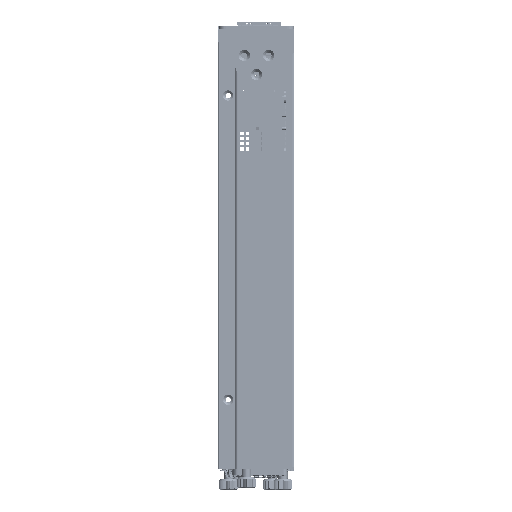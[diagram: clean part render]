
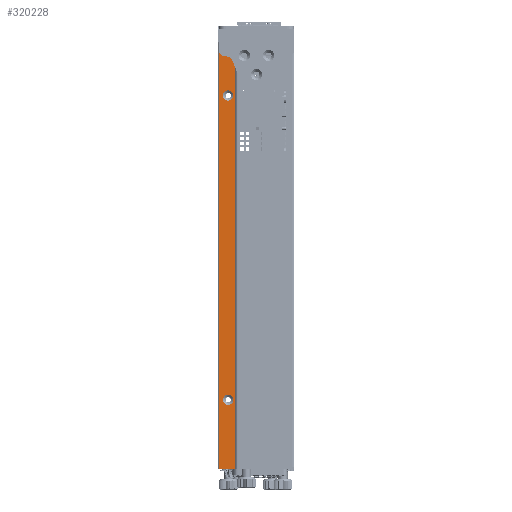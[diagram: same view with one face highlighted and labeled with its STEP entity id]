
A CAD part, left-side view. The second image highlights one B-rep face of the part: STEP entity #320228.
In plain terms, the highlighted planar face has unit normal (-1, 0, 0).
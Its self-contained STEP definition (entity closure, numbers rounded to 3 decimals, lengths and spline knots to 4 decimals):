
#3081 = VECTOR ( 'NONE', #1030586, 39.3701 ) ;
#17103 = DIRECTION ( 'NONE',  ( 0., -1., 0. ) ) ;
#52073 = VERTEX_POINT ( 'NONE', #377244 ) ;
#52497 = VERTEX_POINT ( 'NONE', #690537 ) ;
#60154 = CARTESIAN_POINT ( 'NONE',  ( -8.7402, 1.3386, -10. ) ) ;
#79316 = CARTESIAN_POINT ( 'NONE',  ( -8.7402, 1.7323, -10.0394 ) ) ;
#98225 = EDGE_CURVE ( 'NONE', #340029, #52497, #160130, .T. ) ;
#112566 = VERTEX_POINT ( 'NONE', #319765 ) ;
#114008 = ORIENTED_EDGE ( 'NONE', *, *, #166058, .T. ) ;
#114272 = ORIENTED_EDGE ( 'NONE', *, *, #98225, .T. ) ;
#124001 = CARTESIAN_POINT ( 'NONE',  ( -8.7402, 1.378, -0.3937 ) ) ;
#146236 = CIRCLE ( 'NONE', #803759, 0.0394 ) ;
#156330 = DIRECTION ( 'NONE',  ( 1., 0., 0. ) ) ;
#156602 = EDGE_LOOP ( 'NONE', ( #288060, #284304, #857806, #281764, #717078, #985791 ) ) ;
#160130 = CIRCLE ( 'NONE', #653284, 0.1161 ) ;
#160905 = DIRECTION ( 'NONE',  ( 0., 0., -1. ) ) ;
#163113 = DIRECTION ( 'NONE',  ( 0., 0., 1. ) ) ;
#166058 = EDGE_CURVE ( 'NONE', #52497, #340029, #1166390, .T. ) ;
#180089 = VERTEX_POINT ( 'NONE', #338371 ) ;
#180840 = EDGE_LOOP ( 'NONE', ( #114008, #114272 ) ) ;
#206524 = CARTESIAN_POINT ( 'NONE',  ( -8.7402, 1.378, -10. ) ) ;
#228989 = DIRECTION ( 'NONE',  ( 0., 0., 1. ) ) ;
#233050 = EDGE_CURVE ( 'NONE', #112566, #904283, #621099, .T. ) ;
#259130 = DIRECTION ( 'NONE',  ( 1., 0., 0. ) ) ;
#281764 = ORIENTED_EDGE ( 'NONE', *, *, #940910, .T. ) ;
#284304 = ORIENTED_EDGE ( 'NONE', *, *, #575621, .T. ) ;
#288060 = ORIENTED_EDGE ( 'NONE', *, *, #968190, .T. ) ;
#302811 = DIRECTION ( 'NONE',  ( -1., 0., 0. ) ) ;
#306170 = EDGE_CURVE ( 'NONE', #904283, #112566, #1191183, .T. ) ;
#307531 = LINE ( 'NONE', #899282, #542712 ) ;
#316114 = CARTESIAN_POINT ( 'NONE',  ( -8.7402, 1.4961, -8.5807 ) ) ;
#319765 = CARTESIAN_POINT ( 'NONE',  ( -8.7402, 1.4961, -8.3484 ) ) ;
#320228 = ADVANCED_FACE ( 'NONE', ( #1050760, #857744, #1250181 ), #1153681, .T. ) ;
#325482 = CARTESIAN_POINT ( 'NONE',  ( -8.7402, 1.4961, -1.5748 ) ) ;
#330324 = DIRECTION ( 'NONE',  ( 0., 0., 1. ) ) ;
#338371 = CARTESIAN_POINT ( 'NONE',  ( -8.7402, 1.6929, -0.3937 ) ) ;
#340029 = VERTEX_POINT ( 'NONE', #803728 ) ;
#377244 = CARTESIAN_POINT ( 'NONE',  ( -8.7402, 1.6929, -10.0394 ) ) ;
#470148 = CARTESIAN_POINT ( 'NONE',  ( -8.7402, 1.378, -10.0394 ) ) ;
#498290 = EDGE_CURVE ( 'NONE', #52073, #693261, #680059, .T. ) ;
#502311 = CARTESIAN_POINT ( 'NONE',  ( -8.7402, 1.378, -0.4331 ) ) ;
#502491 = DIRECTION ( 'NONE',  ( 0., 0., -1. ) ) ;
#506100 = CARTESIAN_POINT ( 'NONE',  ( -8.7402, 1.6929, -10.0394 ) ) ;
#522769 = LINE ( 'NONE', #124001, #3081 ) ;
#542712 = VECTOR ( 'NONE', #1085960, 39.3701 ) ;
#566105 = CARTESIAN_POINT ( 'NONE',  ( -8.7402, 1.4961, -1.5748 ) ) ;
#574061 = AXIS2_PLACEMENT_3D ( 'NONE', #79316, #1063435, #163113 ) ;
#575621 = EDGE_CURVE ( 'NONE', #984298, #1159524, #650511, .T. ) ;
#598782 = DIRECTION ( 'NONE',  ( 0., -1., 0. ) ) ;
#621099 = CIRCLE ( 'NONE', #1196001, 0.1161 ) ;
#650511 = CIRCLE ( 'NONE', #670753, 0.0394 ) ;
#653284 = AXIS2_PLACEMENT_3D ( 'NONE', #566105, #1042222, #160905 ) ;
#670753 = AXIS2_PLACEMENT_3D ( 'NONE', #502311, #302811, #598782 ) ;
#680059 = LINE ( 'NONE', #506100, #704381 ) ;
#690537 = CARTESIAN_POINT ( 'NONE',  ( -8.7402, 1.4961, -1.4587 ) ) ;
#693261 = VERTEX_POINT ( 'NONE', #470148 ) ;
#694066 = CARTESIAN_POINT ( 'NONE',  ( -8.7402, 1.378, -0.3937 ) ) ;
#696081 = LINE ( 'NONE', #1004670, #1179952 ) ;
#704381 = VECTOR ( 'NONE', #17103, 39.3701 ) ;
#717078 = ORIENTED_EDGE ( 'NONE', *, *, #498290, .T. ) ;
#791892 = VERTEX_POINT ( 'NONE', #60154 ) ;
#803728 = CARTESIAN_POINT ( 'NONE',  ( -8.7402, 1.4961, -1.6909 ) ) ;
#803759 = AXIS2_PLACEMENT_3D ( 'NONE', #206524, #972304, #502491 ) ;
#857744 = FACE_BOUND ( 'NONE', #925359, .T. ) ;
#857806 = ORIENTED_EDGE ( 'NONE', *, *, #913823, .T. ) ;
#887584 = CARTESIAN_POINT ( 'NONE',  ( -8.7402, 1.3386, -0.4331 ) ) ;
#899282 = CARTESIAN_POINT ( 'NONE',  ( -8.7402, 1.3386, -10. ) ) ;
#904283 = VERTEX_POINT ( 'NONE', #316114 ) ;
#913823 = EDGE_CURVE ( 'NONE', #1159524, #180089, #522769, .T. ) ;
#915287 = EDGE_CURVE ( 'NONE', #693261, #791892, #146236, .T. ) ;
#925359 = EDGE_LOOP ( 'NONE', ( #1144390, #946204 ) ) ;
#929921 = DIRECTION ( 'NONE',  ( 1., 0., 0. ) ) ;
#940910 = EDGE_CURVE ( 'NONE', #180089, #52073, #696081, .T. ) ;
#946204 = ORIENTED_EDGE ( 'NONE', *, *, #306170, .T. ) ;
#965254 = AXIS2_PLACEMENT_3D ( 'NONE', #1140487, #259130, #966494 ) ;
#966494 = DIRECTION ( 'NONE',  ( 0., 0., -1. ) ) ;
#968190 = EDGE_CURVE ( 'NONE', #791892, #984298, #307531, .T. ) ;
#972304 = DIRECTION ( 'NONE',  ( -1., 0., 0. ) ) ;
#984298 = VERTEX_POINT ( 'NONE', #887584 ) ;
#985791 = ORIENTED_EDGE ( 'NONE', *, *, #915287, .T. ) ;
#1004670 = CARTESIAN_POINT ( 'NONE',  ( -8.7402, 1.6929, -0.3937 ) ) ;
#1023058 = AXIS2_PLACEMENT_3D ( 'NONE', #325482, #929921, #228989 ) ;
#1030586 = DIRECTION ( 'NONE',  ( 0., 1., 0. ) ) ;
#1037644 = CARTESIAN_POINT ( 'NONE',  ( -8.7402, 1.4961, -8.4646 ) ) ;
#1042222 = DIRECTION ( 'NONE',  ( 1., 0., 0. ) ) ;
#1050760 = FACE_BOUND ( 'NONE', #180840, .T. ) ;
#1063435 = DIRECTION ( 'NONE',  ( -1., 0., 0. ) ) ;
#1085960 = DIRECTION ( 'NONE',  ( 0., 0., 1. ) ) ;
#1088466 = DIRECTION ( 'NONE',  ( 0., 0., -1. ) ) ;
#1140487 = CARTESIAN_POINT ( 'NONE',  ( -8.7402, 1.4961, -8.4646 ) ) ;
#1144390 = ORIENTED_EDGE ( 'NONE', *, *, #233050, .T. ) ;
#1153681 = PLANE ( 'NONE',  #574061 ) ;
#1159524 = VERTEX_POINT ( 'NONE', #694066 ) ;
#1166390 = CIRCLE ( 'NONE', #1023058, 0.1161 ) ;
#1179952 = VECTOR ( 'NONE', #1088466, 39.3701 ) ;
#1191183 = CIRCLE ( 'NONE', #965254, 0.1161 ) ;
#1196001 = AXIS2_PLACEMENT_3D ( 'NONE', #1037644, #156330, #330324 ) ;
#1250181 = FACE_OUTER_BOUND ( 'NONE', #156602, .T. ) ;
